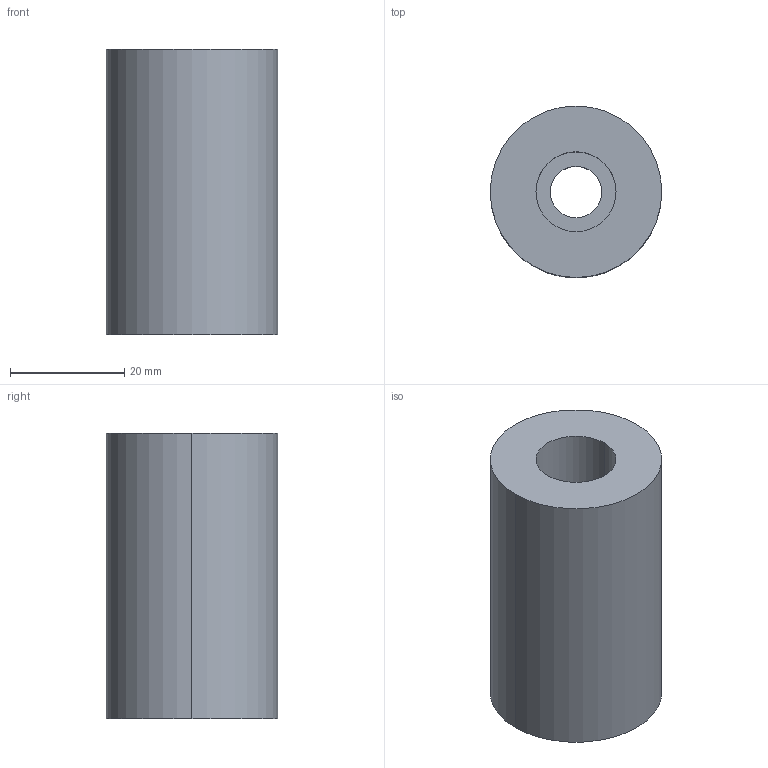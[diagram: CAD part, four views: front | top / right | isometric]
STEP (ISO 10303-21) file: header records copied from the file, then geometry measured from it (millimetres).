
FILE_DESCRIPTION(/* description */ (''),/* implementation_level */ '2;1');
FILE_NAME(/* name */ '3d_aznx30-50-m8-20_03265_r00.stp',/* time_stamp */ '2011-01-10T14:17:33+09:00',/* author */ ('MISUMI'),/* organization */ (''),/* preprocessor_version */ 'ST-DEVELOPER v11',/* originating_system */ 'UGS - NX 5.0',/* authorisation */ '');
FILE_SCHEMA (('CONFIG_CONTROL_DESIGN'));
Length unit declared in the file: millimetre
Products named in the file (1): 3d_aznx30-50-m8-20_03265_r00
Bounding box: 30 x 30 x 50 mm (x, y, z)
Volume: 29452.4 mm3; surface area: 7883.8 mm2
Topology: 1 solids, 1 shells, 9 faces, 18 edges, 12 vertices
Faces by surface type: cylinder 6, plane 3
Entity records: 334 total; most frequent: DIRECTION 50, CARTESIAN_POINT 40, ORIENTED_EDGE 36, AXIS2_PLACEMENT_3D 22, EDGE_CURVE 18, EDGE_LOOP 12, VERTEX_POINT 12, CIRCLE 12
